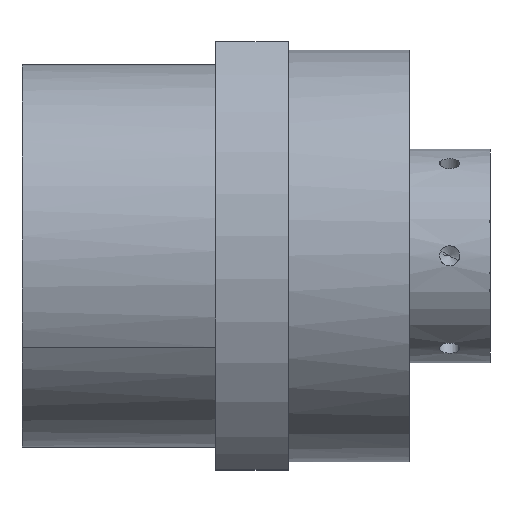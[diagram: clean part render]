
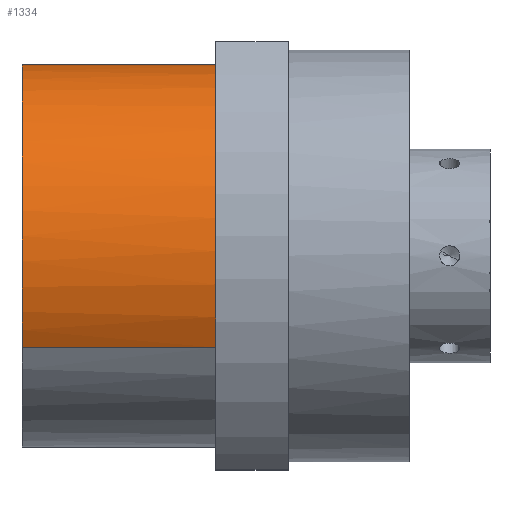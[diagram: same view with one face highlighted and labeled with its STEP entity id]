
A CAD part, top view. The second image highlights one B-rep face of the part: STEP entity #1334.
In plain terms, the highlighted cylindrical face has radius 47.5 mm (diameter 95 mm), a partial arc.
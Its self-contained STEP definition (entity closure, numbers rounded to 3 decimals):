
#697=CARTESIAN_POINT('Vertex',(-66.,-22.773,41.685)) ;
#699=CARTESIAN_POINT('Vertex',(-66.,22.773,-41.685)) ;
#703=CARTESIAN_POINT('Control Point',(-66.,22.773,-41.685)) ;
#704=CARTESIAN_POINT('Control Point',(-66.,26.625,-39.581)) ;
#705=CARTESIAN_POINT('Control Point',(-66.,30.234,-37.032)) ;
#706=CARTESIAN_POINT('Control Point',(-66.,33.531,-34.075)) ;
#707=CARTESIAN_POINT('Control Point',(-66.,39.383,-27.453)) ;
#708=CARTESIAN_POINT('Control Point',(-66.,43.571,-19.672)) ;
#709=CARTESIAN_POINT('Control Point',(-66.,45.205,-15.555)) ;
#710=CARTESIAN_POINT('Control Point',(-66.,47.491,-7.019)) ;
#711=CARTESIAN_POINT('Control Point',(-66.,47.772,1.814)) ;
#712=CARTESIAN_POINT('Control Point',(-66.,47.399,6.227)) ;
#713=CARTESIAN_POINT('Control Point',(-66.,45.64,14.887)) ;
#714=CARTESIAN_POINT('Control Point',(-66.,41.954,22.918)) ;
#715=CARTESIAN_POINT('Control Point',(-66.,39.653,26.703)) ;
#716=CARTESIAN_POINT('Control Point',(-66.,34.219,33.671)) ;
#717=CARTESIAN_POINT('Control Point',(-66.,27.339,39.217)) ;
#718=CARTESIAN_POINT('Control Point',(-66.,23.592,41.579)) ;
#719=CARTESIAN_POINT('Control Point',(-66.,15.621,45.394)) ;
#720=CARTESIAN_POINT('Control Point',(-66.,6.991,47.292)) ;
#721=CARTESIAN_POINT('Control Point',(-66.,2.584,47.736)) ;
#722=CARTESIAN_POINT('Control Point',(-66.,-5.366,47.612)) ;
#723=CARTESIAN_POINT('Control Point',(-66.,-13.102,45.86)) ;
#724=CARTESIAN_POINT('Control Point',(-66.,-16.458,44.766)) ;
#725=CARTESIAN_POINT('Control Point',(-66.,-19.693,43.368)) ;
#726=CARTESIAN_POINT('Control Point',(-66.,-22.773,41.685)) ;
#1292=CARTESIAN_POINT('Line Origine',(-84.861,22.773,-41.685)) ;
#1296=CARTESIAN_POINT('Vertex',(-18.,22.773,-41.685)) ;
#1303=CARTESIAN_POINT('Vertex',(-18.,-22.773,41.685)) ;
#1306=CARTESIAN_POINT('Line Origine',(-84.861,-22.773,41.685)) ;
#1318=CARTESIAN_POINT('Axis2P3D Location',(-84.861,0.,0.)) ;
#1323=CARTESIAN_POINT('Axis2P3D Location',(-18.,0.,0.)) ;
#1293=DIRECTION('Vector Direction',(1.,0.,0.)) ;
#1307=DIRECTION('Vector Direction',(1.,0.,0.)) ;
#1319=DIRECTION('Axis2P3D Direction',(1.,0.,0.)) ;
#1320=DIRECTION('Axis2P3D XDirection',(0.,0.479,-0.878)) ;
#1324=DIRECTION('Axis2P3D Direction',(1.,0.,0.)) ;
#1321=AXIS2_PLACEMENT_3D('Cylinder Axis2P3D',#1318,#1319,#1320) ;
#1325=AXIS2_PLACEMENT_3D('Circle Axis2P3D',#1323,#1324,$) ;
#1329=ORIENTED_EDGE('',*,*,#1310,.F.) ;
#1330=ORIENTED_EDGE('',*,*,#1327,.F.) ;
#1331=ORIENTED_EDGE('',*,*,#1298,.T.) ;
#1332=ORIENTED_EDGE('',*,*,#727,.T.) ;
#1294=VECTOR('Line Direction',#1293,1.) ;
#1308=VECTOR('Line Direction',#1307,1.) ;
#1334=ADVANCED_FACE('WBK35DFT(H)',(#1333),#1322,.T.) ;
#702=B_SPLINE_CURVE_WITH_KNOTS('',5,(#703,#704,#705,#706,#707,#708,#709,#710,#711,#712,#713,#714,#715,#716,#717,#718,#719,#720,#721,#722,#723,#724,#725,#726),.UNSPECIFIED.,.F.,.U.,(6,3,3,3,3,3,3,6),(0.,31.037,62.074,93.11,124.147,155.184,186.221,211.035),.UNSPECIFIED.) ;
#1326=CIRCLE('generated circle',#1325,47.5) ;
#1322=CYLINDRICAL_SURFACE('generated cylinder',#1321,47.5) ;
#727=EDGE_CURVE('',#700,#698,#702,.T.) ;
#1298=EDGE_CURVE('',#1297,#700,#1295,.F.) ;
#1310=EDGE_CURVE('',#1304,#698,#1309,.F.) ;
#1327=EDGE_CURVE('',#1297,#1304,#1326,.T.) ;
#1328=EDGE_LOOP('',(#1329,#1330,#1331,#1332)) ;
#1333=FACE_OUTER_BOUND('',#1328,.T.) ;
#1295=LINE('Line',#1292,#1294) ;
#1309=LINE('Line',#1306,#1308) ;
#698=VERTEX_POINT('',#697) ;
#700=VERTEX_POINT('',#699) ;
#1297=VERTEX_POINT('',#1296) ;
#1304=VERTEX_POINT('',#1303) ;
